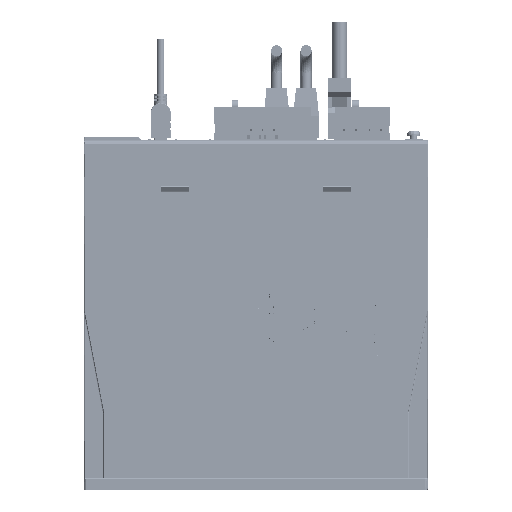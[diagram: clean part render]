
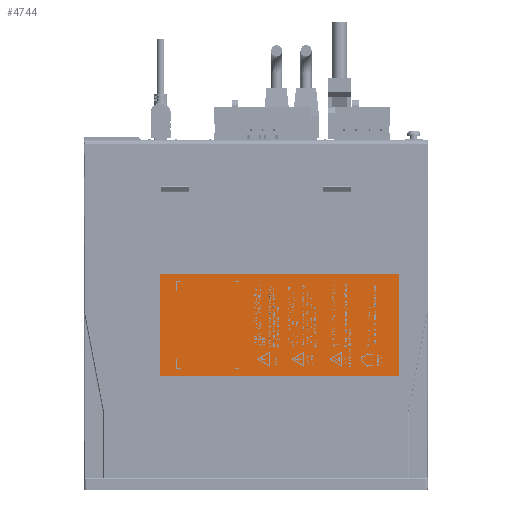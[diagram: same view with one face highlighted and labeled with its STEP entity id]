
A CAD part, left-side view. The second image highlights one B-rep face of the part: STEP entity #4744.
In plain terms, the highlighted planar face has unit normal (-1, 0, 0).
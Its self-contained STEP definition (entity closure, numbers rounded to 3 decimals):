
#4744=ADVANCED_FACE('',(#31494),#399287,.T.);
#31494=FACE_OUTER_BOUND('',#56840,.T.);
#56840=EDGE_LOOP('',(#94170,#94171,#94172,#94173,#94174,#94175));
#94170=ORIENTED_EDGE('',*,*,#216889,.F.);
#94171=ORIENTED_EDGE('',*,*,#218288,.T.);
#94172=ORIENTED_EDGE('',*,*,#218289,.F.);
#94173=ORIENTED_EDGE('',*,*,#218290,.F.);
#94174=ORIENTED_EDGE('',*,*,#216884,.F.);
#94175=ORIENTED_EDGE('',*,*,#216883,.T.);
#216883=EDGE_CURVE('',#350496,#350497,#278028,.T.);
#216884=EDGE_CURVE('',#350496,#350498,#289732,.T.);
#216889=EDGE_CURVE('',#350501,#350497,#289737,.T.);
#218288=EDGE_CURVE('',#350501,#350500,#278177,.T.);
#218289=EDGE_CURVE('',#350499,#350500,#290987,.T.);
#218290=EDGE_CURVE('',#350498,#350499,#290988,.T.);
#278028=TRIMMED_CURVE($,#281954,(#511726),(#511727),.T.,.CARTESIAN.);
#278177=TRIMMED_CURVE($,#282103,(#515018),(#515019),.T.,.CARTESIAN.);
#281954=CIRCLE('',#418368,0.2);
#282103=CIRCLE('',#418517,0.2);
#289732=B_SPLINE_CURVE_WITH_KNOTS('',1,(#511728,#511729),.UNSPECIFIED.,
 .F.,.F.,(2,2),(0.,128.8),.UNSPECIFIED.);
#289737=B_SPLINE_CURVE_WITH_KNOTS('',1,(#511738,#511739),.UNSPECIFIED.,
 .F.,.F.,(2,2),(0.,54.6),.UNSPECIFIED.);
#290987=B_SPLINE_CURVE_WITH_KNOTS('',1,(#515020,#515021),.UNSPECIFIED.,
 .F.,.F.,(2,2),(-128.8,0.),.UNSPECIFIED.);
#290988=B_SPLINE_CURVE_WITH_KNOTS('',1,(#515022,#515023),.UNSPECIFIED.,
 .F.,.F.,(2,2),(-55.,0.),.UNSPECIFIED.);
#350496=VERTEX_POINT('',#501991);
#350497=VERTEX_POINT('',#501992);
#350498=VERTEX_POINT('',#501993);
#350499=VERTEX_POINT('',#501994);
#350500=VERTEX_POINT('',#501995);
#350501=VERTEX_POINT('',#501996);
#399287=PLANE('',#417635);
#417635=AXIS2_PLACEMENT_3D('',#497363,#443484,$);
#418368=AXIS2_PLACEMENT_3D($,#511725,#444638,#444639);
#418517=AXIS2_PLACEMENT_3D($,#515017,#444936,#444937);
#443484=DIRECTION('',(-1.,0.,0.));
#444638=DIRECTION('',(-1.,0.,0.));
#444639=DIRECTION('',(0.,0.,1.));
#444936=DIRECTION('',(-1.,0.,0.));
#444937=DIRECTION('',(0.,1.,0.));
#497363=CARTESIAN_POINT('',(35.705,-261.249,-129.841));
#501991=CARTESIAN_POINT('',(35.705,-274.409,-69.281));
#501992=CARTESIAN_POINT('',(35.705,-274.209,-69.481));
#501993=CARTESIAN_POINT('',(35.705,-403.209,-69.281));
#501994=CARTESIAN_POINT('',(35.705,-403.209,-124.281));
#501995=CARTESIAN_POINT('',(35.705,-274.409,-124.281));
#501996=CARTESIAN_POINT('',(35.705,-274.209,-124.081));
#511725=CARTESIAN_POINT('',(35.705,-274.409,-69.481));
#511726=CARTESIAN_POINT('',(35.705,-274.409,-69.281));
#511727=CARTESIAN_POINT('',(35.705,-274.209,-69.481));
#511728=CARTESIAN_POINT('',(35.705,-274.409,-69.281));
#511729=CARTESIAN_POINT('',(35.705,-403.209,-69.281));
#511738=CARTESIAN_POINT('',(35.705,-274.209,-124.081));
#511739=CARTESIAN_POINT('',(35.705,-274.209,-69.481));
#515017=CARTESIAN_POINT('',(35.705,-274.409,-124.081));
#515018=CARTESIAN_POINT('',(35.705,-274.209,-124.081));
#515019=CARTESIAN_POINT('',(35.705,-274.409,-124.281));
#515020=CARTESIAN_POINT('',(35.705,-403.209,-124.281));
#515021=CARTESIAN_POINT('',(35.705,-274.409,-124.281));
#515022=CARTESIAN_POINT('',(35.705,-403.209,-69.281));
#515023=CARTESIAN_POINT('',(35.705,-403.209,-124.281));
